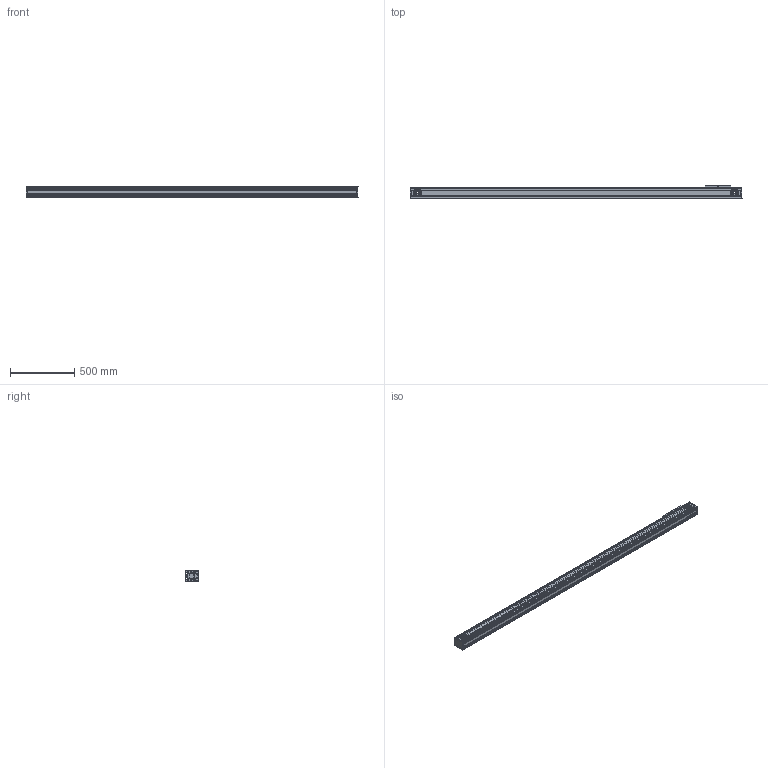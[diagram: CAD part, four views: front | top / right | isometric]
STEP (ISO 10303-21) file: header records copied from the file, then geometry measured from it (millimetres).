
FILE_DESCRIPTION (( 'STEP AP214' ), '1' );
FILE_NAME ('TKR80-2200A1-F0-R3-高速内滚轮直线模组.step', '2025-10-10T03:27:46', ( '' ), ( '' ), 'SwSTEP 2.0', 'SolidWorks 2024', '' );
FILE_SCHEMA (( 'AUTOMOTIVE_DESIGN' ));
Length unit declared in the file: millimetre
Products named in the file (3): TKR80-2200-R3-01; TKR80-2200A1-F0-R3-高速内滚轮直线模组; TKR80-R3-02
Assembly tree (2 placements, depth 2):
  TKR80-2200A1-F0-R3-高速内滚轮直线模组
    TKR80-2200-R3-01
    TKR80-R3-02
Bounding box: 2586 x 100 x 87 mm (x, y, z)
Volume: 7512978.8 mm3; surface area: 2935785.4 mm2
Topology: 1 solids, 52 shells, 2499 faces, 6775 edges, 4338 vertices
Faces by surface type: cylinder 1279, plane 770, torus 244, cone 182, sphere 24
Entity records: 120687 total; most frequent: CARTESIAN_POINT 31465, ORIENTED_EDGE 13382, DIRECTION 13179, EDGE_CURVE 6731, AXIS2_PLACEMENT_3D 5137, VERTEX_POINT 4338, VECTOR 2905, LINE 2905
